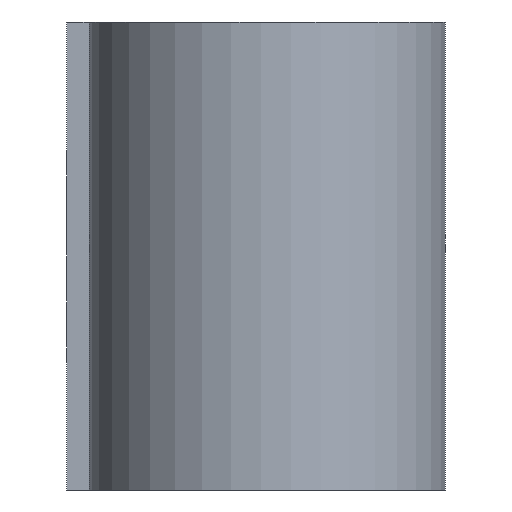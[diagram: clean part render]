
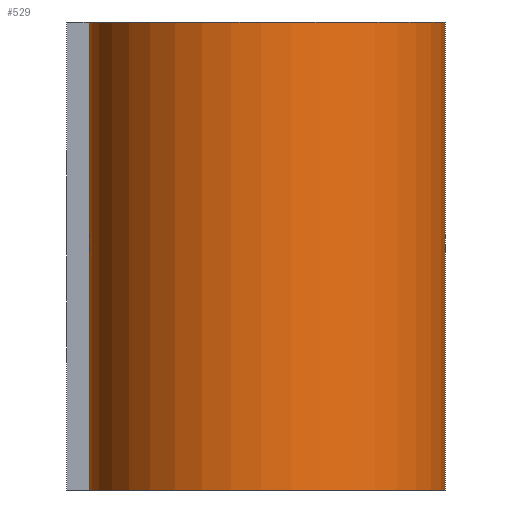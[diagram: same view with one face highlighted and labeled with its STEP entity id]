
A CAD part, left-side view. The second image highlights one B-rep face of the part: STEP entity #529.
In plain terms, the highlighted cylindrical face has radius 8 mm (diameter 16 mm), a partial arc.
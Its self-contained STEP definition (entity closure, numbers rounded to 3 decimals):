
#32 = ORIENTED_EDGE ( 'NONE', *, *, #1739, .T. ) ;
#223 = DIRECTION ( 'NONE',  ( 0., 0., 1. ) ) ;
#250 = CARTESIAN_POINT ( 'NONE',  ( 0., 0., -21. ) ) ;
#375 = VERTEX_POINT ( 'NONE', #1211 ) ;
#426 = CARTESIAN_POINT ( 'NONE',  ( 0., 8., -21. ) ) ;
#428 = CYLINDRICAL_SURFACE ( 'NONE', #1495, 8. ) ;
#496 = CARTESIAN_POINT ( 'NONE',  ( 0., 8., -21. ) ) ;
#529 = ADVANCED_FACE ( 'NONE', ( #1311 ), #428, .T. ) ;
#681 = DIRECTION ( 'NONE',  ( 1., 0., 0. ) ) ;
#702 = DIRECTION ( 'NONE',  ( 1., 0., 0. ) ) ;
#859 = DIRECTION ( 'NONE',  ( 1., 0., 0. ) ) ;
#868 = CARTESIAN_POINT ( 'NONE',  ( 4.6, -6.545, 0. ) ) ;
#985 = CIRCLE ( 'NONE', #1111, 8. ) ;
#1050 = CIRCLE ( 'NONE', #1299, 8. ) ;
#1111 = AXIS2_PLACEMENT_3D ( 'NONE', #1436, #1581, #681 ) ;
#1144 = DIRECTION ( 'NONE',  ( 0., 0., 1. ) ) ;
#1211 = CARTESIAN_POINT ( 'NONE',  ( 0., 8., 0. ) ) ;
#1264 = VECTOR ( 'NONE', #1858, 1000. ) ;
#1265 = LINE ( 'NONE', #1847, #1264 ) ;
#1278 = ORIENTED_EDGE ( 'NONE', *, *, #1304, .T. ) ;
#1299 = AXIS2_PLACEMENT_3D ( 'NONE', #1759, #223, #859 ) ;
#1304 = EDGE_CURVE ( 'NONE', #1880, #1373, #1265, .T. ) ;
#1306 = VERTEX_POINT ( 'NONE', #496 ) ;
#1311 = FACE_OUTER_BOUND ( 'NONE', #1482, .T. ) ;
#1318 = LINE ( 'NONE', #426, #1857 ) ;
#1354 = ORIENTED_EDGE ( 'NONE', *, *, #1814, .F. ) ;
#1373 = VERTEX_POINT ( 'NONE', #868 ) ;
#1436 = CARTESIAN_POINT ( 'NONE',  ( 0., 0., 0. ) ) ;
#1482 = EDGE_LOOP ( 'NONE', ( #32, #1278, #1354, #1624 ) ) ;
#1495 = AXIS2_PLACEMENT_3D ( 'NONE', #250, #1144, #702 ) ;
#1561 = DIRECTION ( 'NONE',  ( 0., 0., -1. ) ) ;
#1581 = DIRECTION ( 'NONE',  ( 0., 0., 1. ) ) ;
#1624 = ORIENTED_EDGE ( 'NONE', *, *, #1777, .T. ) ;
#1718 = CARTESIAN_POINT ( 'NONE',  ( 4.6, -6.545, -21. ) ) ;
#1739 = EDGE_CURVE ( 'NONE', #1306, #1880, #1050, .T. ) ;
#1759 = CARTESIAN_POINT ( 'NONE',  ( 0., 0., -21. ) ) ;
#1777 = EDGE_CURVE ( 'NONE', #375, #1306, #1318, .T. ) ;
#1814 = EDGE_CURVE ( 'NONE', #375, #1373, #985, .T. ) ;
#1847 = CARTESIAN_POINT ( 'NONE',  ( 4.6, -6.545, -21. ) ) ;
#1857 = VECTOR ( 'NONE', #1561, 1000. ) ;
#1858 = DIRECTION ( 'NONE',  ( 0., 0., 1. ) ) ;
#1880 = VERTEX_POINT ( 'NONE', #1718 ) ;
